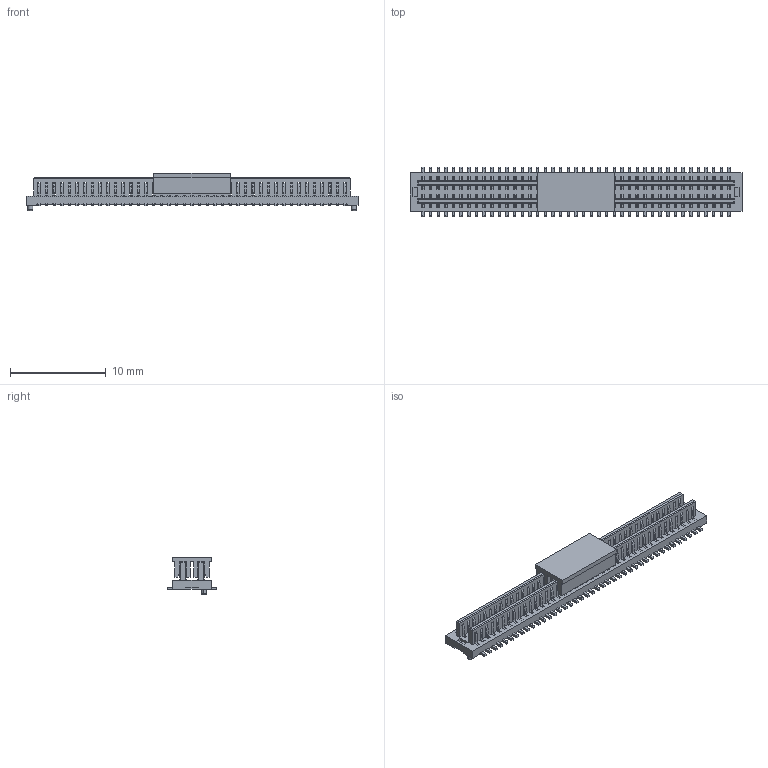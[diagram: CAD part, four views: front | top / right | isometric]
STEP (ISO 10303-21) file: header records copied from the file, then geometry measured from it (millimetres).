
FILE_DESCRIPTION (( 'STEP AP203' ), '1' );
FILE_NAME ('HC-PBB08-2-82-M-H1.0-G1-R-P-04(BTB0.8 双槽 公座 立贴 带柱 编带+盖)-HCTL.STEP', '2025-12-10T09:30:31', ( '' ), ( '' ), 'SwSTEP 2.0', 'SolidWorks 2025', '' );
FILE_SCHEMA (( 'CONFIG_CONTROL_DESIGN' ));
Products named in the file (1): HC-PBB08-2-82-M-H1.0-G1-R-P-04(BTB0.8 双槽 公座 立贴 带柱 编带+盖)-HCTL
Bounding box: 34.7 x 5.2 x 3.95 mm (x, y, z)
Volume: 227.8 mm3; surface area: 1556.6 mm2
Topology: 2 solids, 2 shells, 4754 faces, 15286 edges, 9968 vertices
Faces by surface type: plane 3106, cylinder 1644, torus 4
Entity records: 169009 total; most frequent: CARTESIAN_POINT 31145, ORIENTED_EDGE 30572, DIRECTION 27764, EDGE_CURVE 15286, VECTOR 11662, LINE 11662, VERTEX_POINT 9968, AXIS2_PLACEMENT_3D 8051
